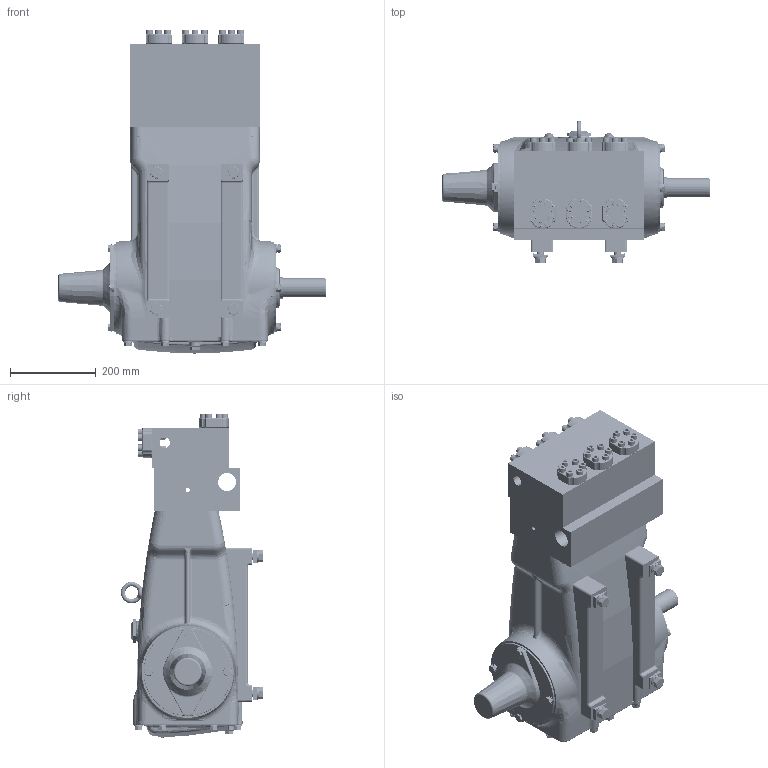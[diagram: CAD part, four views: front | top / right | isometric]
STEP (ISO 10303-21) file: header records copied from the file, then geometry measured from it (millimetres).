
FILE_DESCRIPTION (( 'STEP AP214' ), '1' );
FILE_NAME ('6801 - K.STEP', '2013-01-25T12:30:18', ( '' ), ( '' ), 'SwSTEP 2.0', 'SolidWorks 2012', '' );
FILE_SCHEMA (( 'AUTOMOTIVE_DESIGN' ));
Length unit declared in the file: millimetre
Products named in the file (1): 6801 - K
Bounding box: 624 x 332.13 x 756.46 mm (x, y, z)
Volume: 38548141 mm3; surface area: 2045113.6 mm2
Topology: 1 solids, 76 shells, 5870 faces, 14224 edges, 8654 vertices
Faces by surface type: plane 2184, cylinder 1700, torus 919, bspline 669, cone 216, sphere 182
Entity records: 259522 total; most frequent: CARTESIAN_POINT 73142, ORIENTED_EDGE 28136, DIRECTION 27309, EDGE_CURVE 14068, AXIS2_PLACEMENT_3D 10484, VERTEX_POINT 8598, VECTOR 6341, LINE 6341
